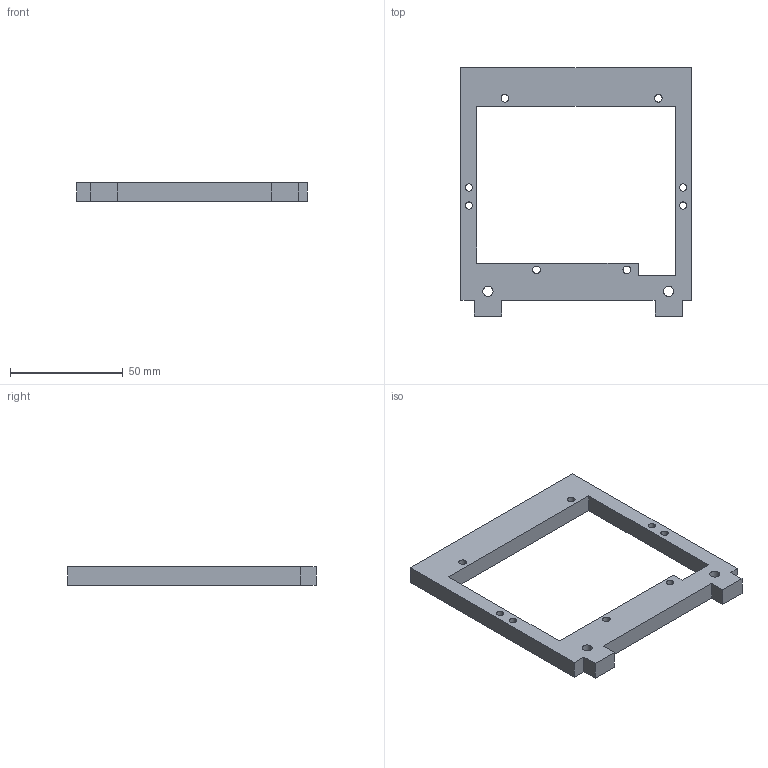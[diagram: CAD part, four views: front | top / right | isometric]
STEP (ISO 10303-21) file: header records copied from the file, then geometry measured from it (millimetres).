
FILE_DESCRIPTION (( 'STEP AP203' ), '1' );
FILE_NAME ('07_vertical_tx_frame.step', '2026-10-06T17:27:31', ( '' ), ( '' ), 'SwSTEP 2.0', 'SolidWorks 2025', '' );
FILE_SCHEMA (( 'CONFIG_CONTROL_DESIGN' ));
Length unit declared in the file: millimetre
Products named in the file (1): 07_vertical_tx_frame
Bounding box: 102 x 110 x 8 mm (x, y, z)
Volume: 34935.6 mm3; surface area: 15735.6 mm2
Topology: 1 solids, 1 shells, 40 faces, 114 edges, 76 vertices
Faces by surface type: cylinder 20, plane 20
Entity records: 1439 total; most frequent: DIRECTION 236, CARTESIAN_POINT 231, ORIENTED_EDGE 228, EDGE_CURVE 114, AXIS2_PLACEMENT_3D 81, VERTEX_POINT 76, LINE 74, VECTOR 74
